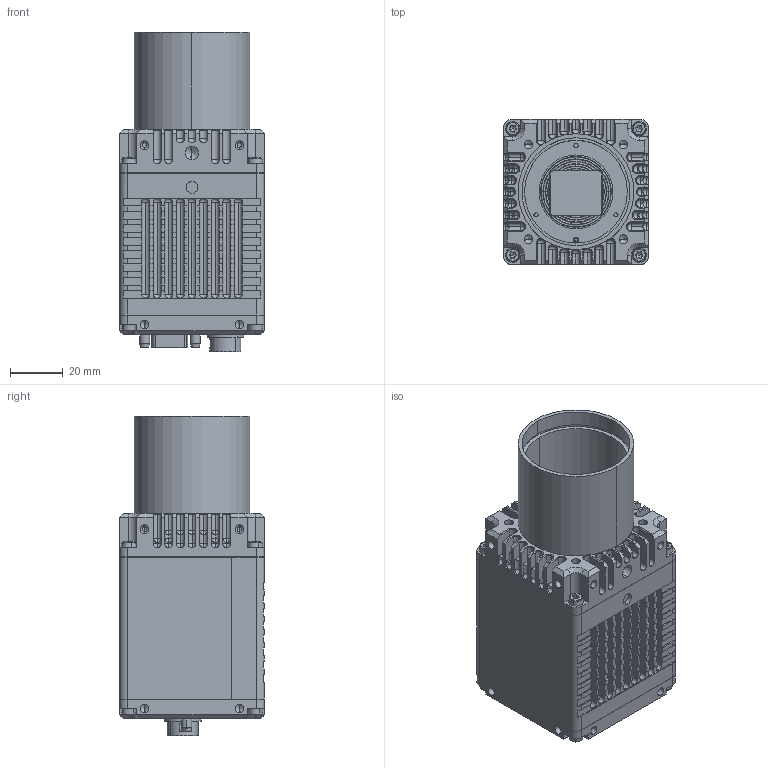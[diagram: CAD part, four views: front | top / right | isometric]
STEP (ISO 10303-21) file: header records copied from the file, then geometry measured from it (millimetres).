
FILE_DESCRIPTION (( 'STEP AP214' ), '1' );
FILE_NAME ('4168003_Goldeye CL-032 SWIR TEC1 M42-Mount (M42-Mount Chunghwa 640x512).STEP', '2023-07-24T14:17:55', ( '' ), ( '' ), 'SwSTEP 2.0', 'SolidWorks 2021', '' );
FILE_SCHEMA (( 'AUTOMOTIVE_DESIGN' ));
Length unit declared in the file: millimetre
Products named in the file (1): 4168003_Goldeye CL-032 SWIR TEC1 M42-Mount (M42-Mount Chunghwa 640x512)
Bounding box: 55.01 x 55 x 121.1 mm (x, y, z)
Surface area: 85185.1 mm2 (no closed solid volume)
Topology: 0 solids, 42 shells, 2861 faces, 7578 edges, 4779 vertices
Faces by surface type: plane 1314, cylinder 851, bspline 297, cone 248, sphere 98, torus 53
Entity records: 127450 total; most frequent: CARTESIAN_POINT 26812, ORIENTED_EDGE 14472, DIRECTION 13590, EDGE_CURVE 7386, VERTEX_POINT 4765, VECTOR 4604, LINE 4604, AXIS2_PLACEMENT_3D 4493
